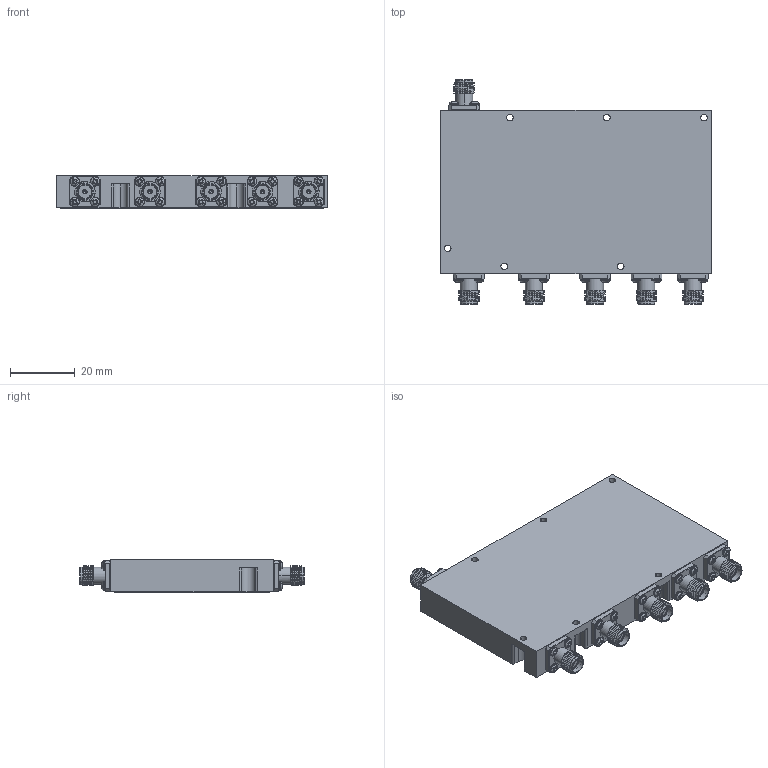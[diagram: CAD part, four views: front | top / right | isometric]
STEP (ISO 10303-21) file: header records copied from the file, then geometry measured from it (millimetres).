
FILE_DESCRIPTION (( 'STEP AP214' ), '1' );
FILE_NAME ('P5P-218-S6F-2.STEP', '2026-01-19T18:24:43', ( '' ), ( '' ), 'SwSTEP 2.0', 'SolidWorks 2025', '' );
FILE_SCHEMA (( 'AUTOMOTIVE_DESIGN' ));
Length unit declared in the file: inch
Products named in the file (1): P5P-218-S6F-2
Bounding box: 83.82 x 69.39 x 10.08 mm (x, y, z)
Volume: 43364.1 mm3; surface area: 23661.4 mm2
Topology: 32 solids, 32 shells, 2594 faces, 7161 edges, 4793 vertices
Faces by surface type: plane 986, cylinder 936, torus 372, cone 240, sphere 48, bspline 12
Entity records: 125129 total; most frequent: CARTESIAN_POINT 26113, ORIENTED_EDGE 14178, DIRECTION 13512, EDGE_CURVE 7089, AXIS2_PLACEMENT_3D 5181, VERTEX_POINT 4793, LINE 3150, VECTOR 3150
